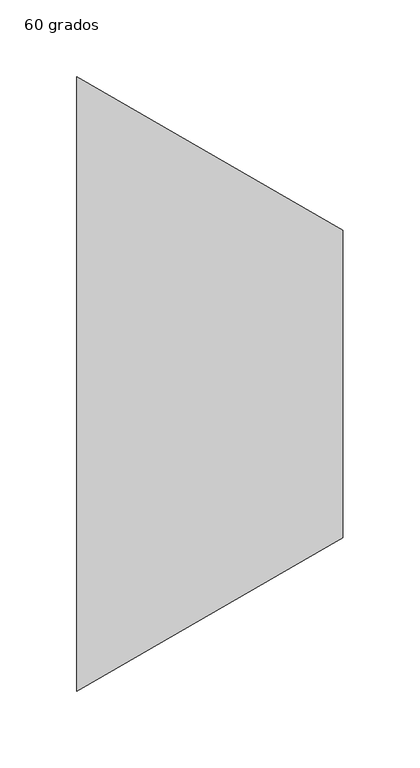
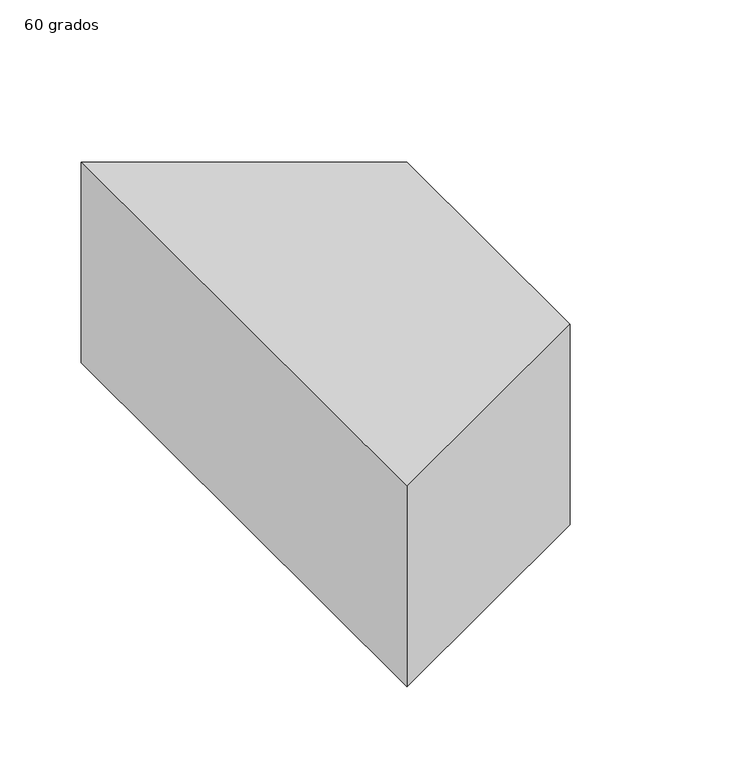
"""IFC4 building model written with IfcOpenShell, lengths in millimetres: duct fitting geometry, M_Transición rectangular - Ángulo : 60 grados."""

import ifcopenshell
import ifcopenshell.guid

model = None  # the IFC model being written
_history = None  # IfcOwnerHistory: only IFC2X3 demands one
_inside = {}  # id of a spatial element -> (the spatial element, [elements in it])
_under = {}  # id of a project, library or spatial element -> (it, [spatial elements below it])
_declared = {}  # id of a project -> (the project, [libraries it declares])
_typed = {}  # id of a type object -> (the type object, [elements of that type])
_made_of = {}  # id of a material, layer set ... -> (it, [elements and type objects made of it])


def new_model(schema):
    """Start an empty IFC model of exactly this schema.

    Asked for "IFC4X3", IfcOpenShell would pick the latest addendum, in which some entities
    have other attributes; the version numbers below select the first issue.
    IFC2X3 requires an IfcOwnerHistory on every rooted entity: one is made here for all.
    """
    global model, _history
    if schema == "IFC4X3":
        model = ifcopenshell.file(schema_version=(4, 3, 0, 0))
    else:
        model = ifcopenshell.file(schema=schema)
    _inside.clear()
    _under.clear()
    _declared.clear()
    _typed.clear()
    _made_of.clear()
    _history = None
    if model.schema == "IFC2X3":
        org = make("IfcOrganization", Name="unknown")
        user = make(
            "IfcPersonAndOrganization",
            ThePerson=make("IfcPerson", FamilyName="unknown"),
            TheOrganization=org,
        )
        app = make(
            "IfcApplication",
            ApplicationDeveloper=org,
            Version="unknown",
            ApplicationFullName="unknown",
            ApplicationIdentifier="unknown",
        )
        _history = make(
            "IfcOwnerHistory",
            OwningUser=user,
            OwningApplication=app,
            ChangeAction="ADDED",
            CreationDate=0,
        )
    return model


def make(cls, **values):
    """One entity of the class cls with the attributes given. An attribute that is None is left unset."""
    return model.create_entity(
        cls, **{name: value for name, value in values.items() if value is not None}
    )


def rooted(cls, **values):
    """An entity with a GlobalId (a new one), such as an element, a storey or a relation."""
    return make(cls, GlobalId=ifcopenshell.guid.new(), OwnerHistory=_history, **values)


def si_unit(unit_type, name, prefix=None):
    """IfcSIUnit, for example si_unit("LENGTHUNIT", "METRE", prefix="MILLI")."""
    return make("IfcSIUnit", UnitType=unit_type, Prefix=prefix, Name=name)


def assignment(units):
    """IfcUnitAssignment: the units of a project."""
    return None if units is None else make("IfcUnitAssignment", Units=units)


def point(xyz):
    """IfcCartesianPoint."""
    return None if xyz is None else make("IfcCartesianPoint", Coordinates=xyz)


def direction(xyz):
    """IfcDirection."""
    return None if xyz is None else make("IfcDirection", DirectionRatios=xyz)


def frame(location, z_axis=None, x_axis=None):
    """IfcAxis2Placement3D, a coordinate frame: its origin and axes. An axis left out is left unset."""
    return make(
        "IfcAxis2Placement3D",
        Location=point(location),
        Axis=direction(z_axis),
        RefDirection=direction(x_axis),
    )


def origin():
    """The frame at (0, 0, 0) with its axes left unset."""
    return frame((0.0, 0.0, 0.0))


def place(relative_to, where):
    """IfcLocalPlacement: puts the frame where relative to a parent placement (None: the world)."""
    return make(
        "IfcLocalPlacement", PlacementRelTo=relative_to, RelativePlacement=where
    )


def context(
    kind, dimensions, precision=None, world=None, true_north=None, identifier=None
):
    """IfcGeometricRepresentationContext, for example the 3D "Model" context."""
    return make(
        "IfcGeometricRepresentationContext",
        ContextIdentifier=identifier,
        ContextType=kind,
        CoordinateSpaceDimension=dimensions,
        Precision=precision,
        WorldCoordinateSystem=world,
        TrueNorth=true_north,
    )


def project(units=None, contexts=None):
    """IfcProject with its units and contexts."""
    return rooted(
        "IfcProject",
        Name="project",
        RepresentationContexts=contexts,
        UnitsInContext=assignment(units),
    )


def spatial(cls, under=None, at=None, **own):
    """A site, building, storey or space (cls), placed at a placement, below another one or the project."""
    s = rooted(cls, ObjectPlacement=at, **own)
    if under is not None:
        _under.setdefault(under.id(), (under, []))[1].append(s)
    return s


def polyline(points):
    """IfcPolyline through the points."""
    return make("IfcPolyline", Points=[point(p) for p in points])


def outline(outer, holes=None, kind="AREA"):
    """IfcArbitraryClosedProfileDef: a profile drawn as a closed curve; with holes, ...WithVoids."""
    if holes is None:
        return make("IfcArbitraryClosedProfileDef", ProfileType=kind, OuterCurve=outer)
    return make(
        "IfcArbitraryProfileDefWithVoids",
        ProfileType=kind,
        OuterCurve=outer,
        InnerCurves=holes,
    )


def extrude(swept, where, along, depth):
    """IfcExtrudedAreaSolid: the profile swept, set in the frame where, extruded along a direction by depth."""
    return make(
        "IfcExtrudedAreaSolid",
        SweptArea=swept,
        Position=where,
        ExtrudedDirection=direction(along),
        Depth=depth,
    )


def shape(context_of_items, identifier, shape_type, items):
    """IfcShapeRepresentation: the items that make up one representation, for example the "Body"."""
    return make(
        "IfcShapeRepresentation",
        ContextOfItems=context_of_items,
        RepresentationIdentifier=identifier,
        RepresentationType=shape_type,
        Items=items,
    )


def source(mapping_origin, context_of_items, identifier, shape_type, items):
    """IfcRepresentationMap: a shape defined once, which mapped items show again and again."""
    return make(
        "IfcRepresentationMap",
        MappingOrigin=mapping_origin,
        MappedRepresentation=shape(context_of_items, identifier, shape_type, items),
    )


def transform(
    local_origin,
    x_axis=None,
    y_axis=None,
    z_axis=None,
    scale=None,
    scale2=None,
    scale3=None,
    uniform=True,
):
    """IfcCartesianTransformationOperator3D, or its non-uniform kind. x_axis, y_axis, z_axis: its Axis1, 2, 3."""
    if uniform:
        return make(
            "IfcCartesianTransformationOperator3D",
            Axis1=direction(x_axis),
            Axis2=direction(y_axis),
            LocalOrigin=point(local_origin),
            Scale=scale,
            Axis3=direction(z_axis),
        )
    return make(
        "IfcCartesianTransformationOperator3DnonUniform",
        Axis1=direction(x_axis),
        Axis2=direction(y_axis),
        LocalOrigin=point(local_origin),
        Scale=scale,
        Axis3=direction(z_axis),
        Scale2=scale2,
        Scale3=scale3,
    )


def mapped(mapping_source, mapping_target):
    """IfcMappedItem: shows the shape of a source again, moved by a transform."""
    return make(
        "IfcMappedItem", MappingSource=mapping_source, MappingTarget=mapping_target
    )


def made_of(thing, what):
    """Note that an element or type object is made of a material, layer set ...; save() writes the relation."""
    if what is not None:
        _made_of.setdefault(what.id(), (what, []))[1].append(thing)
    return thing


def element(
    cls,
    number,
    at=None,
    inside=None,
    cuts=None,
    type_object=None,
    material=None,
    context=None,
    identifier="Body",
    shape_type=None,
    held_by="IfcProductDefinitionShape",
    body=None,
    shapes=None,
    **own,
):
    """One element of the class cls, such as IfcWall. Its Tag is "e" and its number.

    at: its placement. inside: the storey or other place that contains it. cuts: it is an
    opening in that element (IfcRelVoidsElement). A single representation is given by context,
    identifier, shape_type and body (its items); several are given by shapes. held_by: the class
    of the entity that holds the representations. save() writes the other relations.
    """
    e = rooted(cls, Tag="e%d" % number, ObjectPlacement=at, **own)
    if body is not None:
        shapes = [shape(context, identifier, shape_type, body)]
    if shapes is not None:
        e.Representation = make(held_by, Representations=shapes)
    if inside is not None:
        _inside.setdefault(inside.id(), (inside, []))[1].append(e)
    if cuts is not None:
        rooted(
            "IfcRelVoidsElement", RelatingBuildingElement=cuts, RelatedOpeningElement=e
        )
    if type_object is not None:
        _typed.setdefault(type_object.id(), (type_object, []))[1].append(e)
    return made_of(e, material)


def aggregate(whole, parts):
    """IfcRelAggregates: a whole, such as a stair, and the parts it consists of."""
    return rooted("IfcRelAggregates", RelatingObject=whole, RelatedObjects=parts)


def save(model, path):
    """Write the relations noted so far, then the file.

    IfcRelAggregates (storeys below a building ...), IfcRelContainedInSpatialStructure (elements
    in a storey), IfcRelDefinesByType, IfcRelAssociatesMaterial and IfcRelDeclares: one each for
    every whole, place, type object, material and project.
    """
    for whole, parts in _under.values():
        aggregate(whole, parts)
    for where, things in _inside.values():
        rooted(
            "IfcRelContainedInSpatialStructure",
            RelatedElements=things,
            RelatingStructure=where,
        )
    for kind, things in _typed.values():
        rooted("IfcRelDefinesByType", RelatedObjects=things, RelatingType=kind)
    for what, things in _made_of.values():
        rooted("IfcRelAssociatesMaterial", RelatedObjects=things, RelatingMaterial=what)
    for by, libraries in _declared.values():
        rooted("IfcRelDeclares", RelatingContext=by, RelatedDefinitions=libraries)
    model.write(path)


def duct_fitting_60_grados_6c521ec1(model_context):
    return source(origin(), model_context, "Body", "SweptSolid", [
        extrude(outline(polyline([(0.0, -200.0), (0.0, 200.0), (173.2050808, 100.0), (173.2050808, -100.0), (0.0, -200.0)])), frame((0.0, 0.0, -75.0), z_axis=(0.0, 0.0, 1.0), x_axis=(1.0, 0.0, 0.0)), (0.0, 0.0, 1.0), 150.0),
    ])


if __name__ == "__main__":
    model = new_model("IFC4")
    model_context = context("Model", 3, world=origin())
    ifc_project = project(units=[si_unit("LENGTHUNIT", "METRE", prefix="MILLI")], contexts=[model_context])
    site = spatial("IfcSite", under=ifc_project)
    building = spatial("IfcBuilding", under=site)
    placement = place(None, origin())
    duct_fitting_60_grados_shape = duct_fitting_60_grados_6c521ec1(model_context)
    element("IfcDuctFitting", 1, ObjectType="M_Transición rectangular - Ángulo : 60 grados", at=placement, inside=building, context=model_context, shape_type="MappedRepresentation", body=[
        mapped(duct_fitting_60_grados_shape, transform((0.0, 0.0, 0.0), x_axis=(1.0, 0.0, 0.0), y_axis=(0.0, 1.0, 0.0), z_axis=(0.0, 0.0, 1.0))),
    ])
    save(model, "model.ifc")
